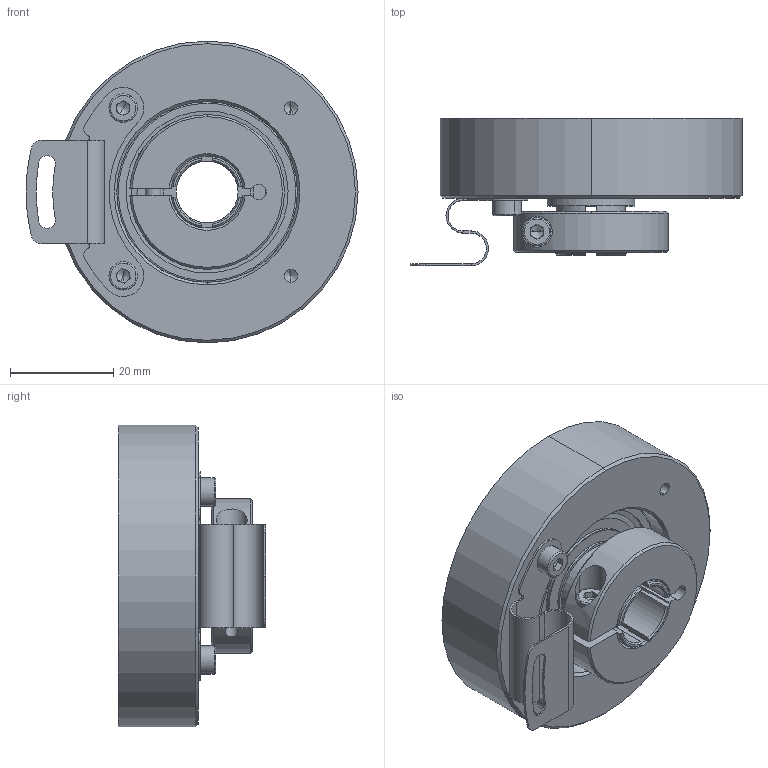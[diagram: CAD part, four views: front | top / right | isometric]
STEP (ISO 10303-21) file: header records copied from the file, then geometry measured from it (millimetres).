
FILE_DESCRIPTION (( 'STEP AP214' ), '1' );
FILE_NAME ('drawing-ucd-hct0-q5b-n.STEP', '2017-01-31T15:49:39', ( '' ), ( '' ), 'SwSTEP 2.0', 'SolidWorks 2015', '' );
FILE_SCHEMA (( 'AUTOMOTIVE_DESIGN' ));
Length unit declared in the file: millimetre
Products named in the file (1): drawing-ucd-hct0-q5b-n
Bounding box: 64.35 x 28.6 x 58.5 mm (x, y, z)
Volume: 38937.3 mm3; surface area: 23789.8 mm2
Topology: 24 solids, 24 shells, 372 faces, 870 edges, 504 vertices
Faces by surface type: cylinder 118, plane 102, cone 80, bspline 60, torus 12
Entity records: 15917 total; most frequent: CARTESIAN_POINT 3387, DIRECTION 1788, ORIENTED_EDGE 1620, EDGE_CURVE 810, AXIS2_PLACEMENT_3D 731, VERTEX_POINT 504, CIRCLE 418, EDGE_LOOP 418
